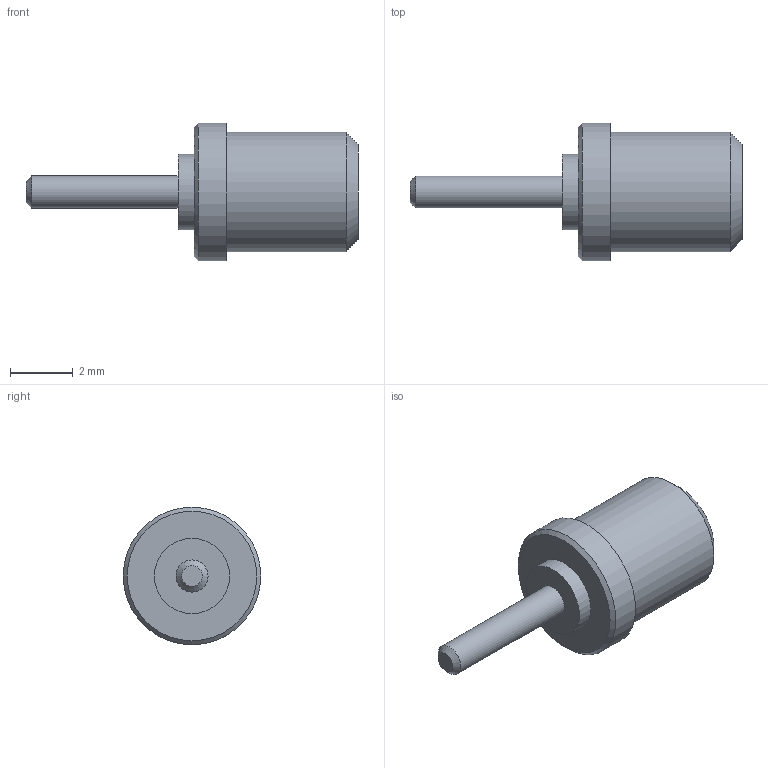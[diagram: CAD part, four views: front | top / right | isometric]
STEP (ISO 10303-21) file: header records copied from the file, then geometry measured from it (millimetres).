
FILE_DESCRIPTION(/* description */ (''),/* implementation_level */ '2;1');
FILE_NAME(/* name */ '\\Snap1\dwgs\Customer 3D Models\571\571-4029-03 Customer model.stp',/* time_stamp */ '2017-01-05T09:44:50+00:00',/* author */ ('paulk'),/* organization */ (''),/* preprocessor_version */ 'ST-DEVELOPER v15.2',/* originating_system */ 'Autodesk Inventor 2014',/* authorisation */ '');
FILE_SCHEMA (('CONFIG_CONTROL_DESIGN'));
Length unit declared in the file: millimetre
Products named in the file (1): 571-4029-03 Customer model
Bounding box: 10.54 x 4.37 x 4.37 mm (x, y, z)
Volume: 67.6 mm3; surface area: 108.7 mm2
Topology: 1 solids, 1 shells, 12 faces, 18 edges, 11 vertices
Faces by surface type: plane 5, cylinder 4, cone 3
Full cylindrical faces by diameter (mm): 1.016 x1, 2.388 x1, 3.785 x1, 4.369 x1
Entity records: 281 total; most frequent: DIRECTION 48, CARTESIAN_POINT 35, AXIS2_PLACEMENT_3D 24, EDGE_LOOP 22, ORIENTED_EDGE 22, FACE_BOUND 13, STYLED_ITEM 13, ADVANCED_FACE 12
